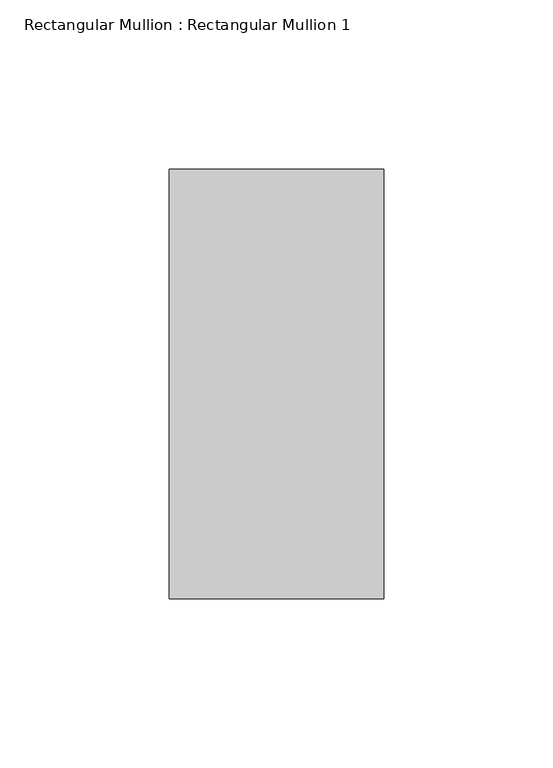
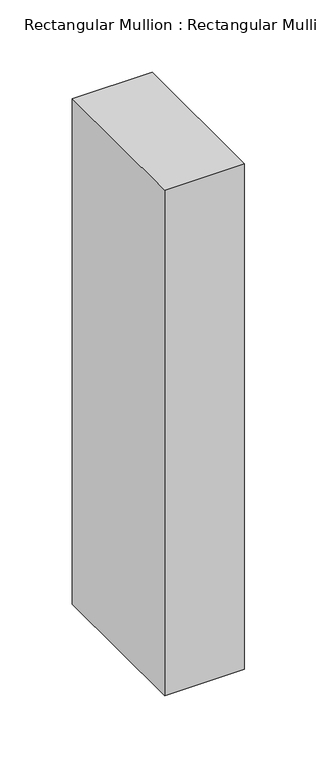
"""IFC4 building model written with IfcOpenShell, lengths in millimetres: member geometry, Rectangular Mullion : Rectangular Mullion 1."""

from ifc_helpers import new_model, si_unit, frame, origin, place, context, project, spatial, polyline, outline, extrude, source, transform, mapped, element, save


def rectangular_mullion_rectangular_mullion_1_70b87a21(model_context):
    return source(origin(), model_context, "Body", "SweptSolid", [
        extrude(outline(polyline([(31.75, 63.5), (31.75, -63.5), (-31.75, -63.5), (-31.75, 63.5), (31.75, 63.5)])), frame((0.0, 0.0, -425.45), z_axis=(0.0, 0.0, 1.0), x_axis=(1.0, 0.0, 0.0)), (0.0, 0.0, 1.0), 425.45),
    ])


if __name__ == "__main__":
    model = new_model("IFC4")
    model_context = context("Model", 3, world=origin())
    ifc_project = project(units=[si_unit("LENGTHUNIT", "METRE", prefix="MILLI")], contexts=[model_context])
    site = spatial("IfcSite", under=ifc_project)
    building = spatial("IfcBuilding", under=site)
    placement = place(None, origin())
    rectangular_mullion_rectangular_mullion_1_shape = rectangular_mullion_rectangular_mullion_1_70b87a21(model_context)
    element("IfcMember", 1, ObjectType="Rectangular Mullion : Rectangular Mullion 1", at=placement, inside=building, context=model_context, shape_type="MappedRepresentation", body=[
        mapped(rectangular_mullion_rectangular_mullion_1_shape, transform((0.0, 0.0, 0.0), x_axis=(1.0, 0.0, 0.0), y_axis=(0.0, 1.0, 0.0), z_axis=(0.0, 0.0, 1.0))),
    ])
    save(model, "model.ifc")
